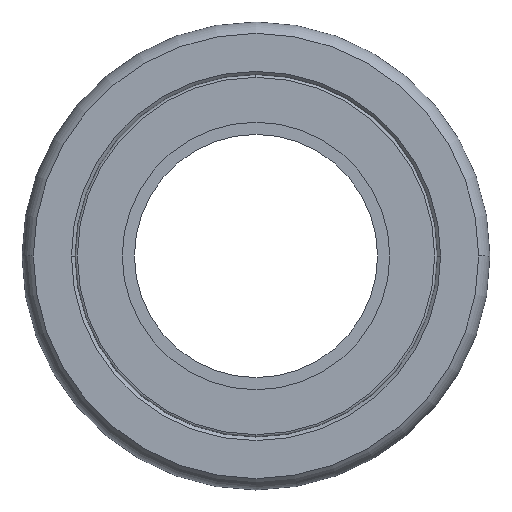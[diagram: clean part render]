
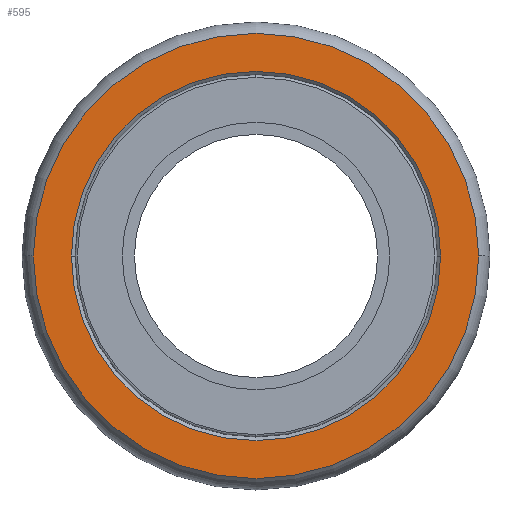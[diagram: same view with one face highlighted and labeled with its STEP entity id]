
A CAD part, left-side view. The second image highlights one B-rep face of the part: STEP entity #595.
In plain terms, the highlighted planar face has unit normal (-1, 0, 0).
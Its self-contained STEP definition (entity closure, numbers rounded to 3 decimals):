
#104=CARTESIAN_POINT('',(2.05,0.,0.));
#105=DIRECTION('',(1.,0.,0.));
#106=DIRECTION('',(0.,1.,0.));
#107=AXIS2_PLACEMENT_3D('',#104,#105,#106);
#126=CARTESIAN_POINT('',(2.05,0.,0.));
#127=DIRECTION('',(1.,0.,0.));
#128=DIRECTION('',(0.,-1.,0.));
#129=AXIS2_PLACEMENT_3D('',#126,#127,#128);
#148=CARTESIAN_POINT('',(2.05,0.,0.));
#149=DIRECTION('',(-1.,0.,0.));
#150=DIRECTION('',(0.,-1.,0.));
#151=AXIS2_PLACEMENT_3D('',#148,#149,#150);
#188=CARTESIAN_POINT('',(2.05,0.,0.));
#189=DIRECTION('',(-1.,0.,0.));
#190=DIRECTION('',(0.,1.,0.));
#191=AXIS2_PLACEMENT_3D('',#188,#189,#190);
#342=CARTESIAN_POINT('',(2.05,-15.186,0.));
#343=CARTESIAN_POINT('',(2.05,15.186,0.));
#344=VERTEX_POINT('',#342);
#345=VERTEX_POINT('',#343);
#346=CARTESIAN_POINT('',(2.05,18.314,0.));
#347=CARTESIAN_POINT('',(2.05,-18.314,
0.));
#348=VERTEX_POINT('',#346);
#349=VERTEX_POINT('',#347);
#580=CARTESIAN_POINT('',(2.05,0.,0.));
#581=DIRECTION('',(1.,0.,0.));
#582=DIRECTION('',(0.,-1.,0.));
#583=AXIS2_PLACEMENT_3D('',#580,#581,#582);
#584=PLANE('',#583);
#585=ORIENTED_EDGE('',*,*,#529,.T.);
#586=ORIENTED_EDGE('',*,*,#566,.T.);
#587=EDGE_LOOP('',(#585,#586));
#588=FACE_OUTER_BOUND('',#587,.F.);
#590=ORIENTED_EDGE('',*,*,#589,.T.);
#592=ORIENTED_EDGE('',*,*,#591,.T.);
#593=EDGE_LOOP('',(#590,#592));
#594=FACE_BOUND('',#593,.F.);
#108=CIRCLE('',#107,18.314);
#130=CIRCLE('',#129,18.314);
#152=CIRCLE('',#151,15.186);
#192=CIRCLE('',#191,15.186);
#529=EDGE_CURVE('',#348,#349,#108,.T.);
#566=EDGE_CURVE('',#349,#348,#130,.T.);
#589=EDGE_CURVE('',#344,#345,#152,.T.);
#591=EDGE_CURVE('',#345,#344,#192,.T.);
#595=ADVANCED_FACE('',(#588,#594),#584,.F.);
